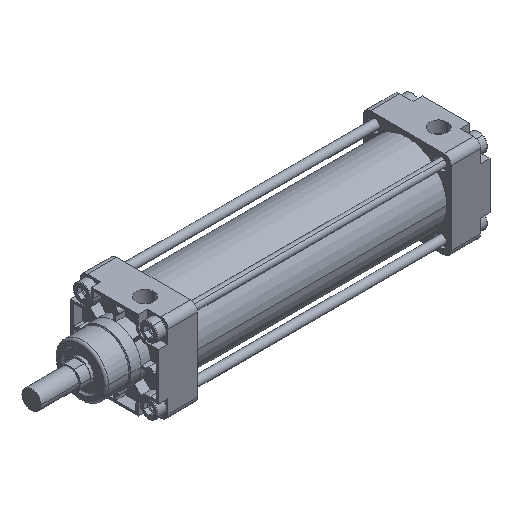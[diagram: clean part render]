
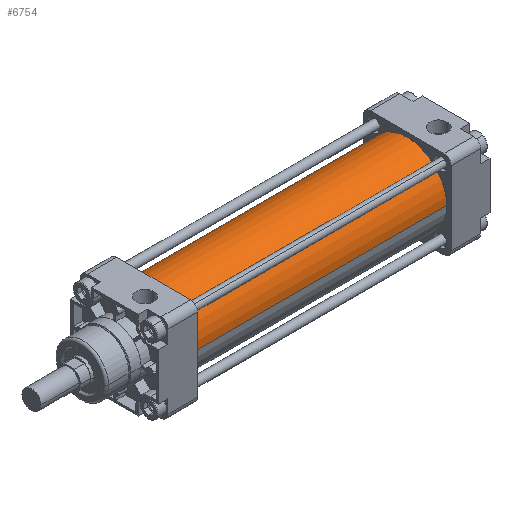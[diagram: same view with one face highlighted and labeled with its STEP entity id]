
A CAD part, isometric view. The second image highlights one B-rep face of the part: STEP entity #6754.
In plain terms, the highlighted cylindrical face has radius 33.5 mm (diameter 67 mm), a partial arc.
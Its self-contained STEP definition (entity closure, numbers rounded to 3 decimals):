
#6391=CARTESIAN_POINT('Vertex',(215.,-33.5,0.)) ;
#6393=CARTESIAN_POINT('Vertex',(215.,33.5,0.)) ;
#6396=CARTESIAN_POINT('Axis2P3D Location',(215.,0.,0.)) ;
#6724=CARTESIAN_POINT('Axis2P3D Location',(107.5,0.,0.)) ;
#6729=CARTESIAN_POINT('Line Origine',(107.5,33.5,0.)) ;
#6733=CARTESIAN_POINT('Vertex',(0.,33.5,0.)) ;
#6736=CARTESIAN_POINT('Axis2P3D Location',(0.,0.,0.)) ;
#6740=CARTESIAN_POINT('Vertex',(0.,-33.5,0.)) ;
#6743=CARTESIAN_POINT('Line Origine',(107.5,-33.5,0.)) ;
#6397=DIRECTION('Axis2P3D Direction',(1.,0.,0.)) ;
#6725=DIRECTION('Axis2P3D Direction',(1.,0.,0.)) ;
#6726=DIRECTION('Axis2P3D XDirection',(0.,1.,0.)) ;
#6730=DIRECTION('Vector Direction',(1.,0.,0.)) ;
#6737=DIRECTION('Axis2P3D Direction',(1.,0.,0.)) ;
#6744=DIRECTION('Vector Direction',(1.,0.,0.)) ;
#6398=AXIS2_PLACEMENT_3D('Circle Axis2P3D',#6396,#6397,$) ;
#6727=AXIS2_PLACEMENT_3D('Cylinder Axis2P3D',#6724,#6725,#6726) ;
#6738=AXIS2_PLACEMENT_3D('Circle Axis2P3D',#6736,#6737,$) ;
#6749=ORIENTED_EDGE('',*,*,#6735,.F.) ;
#6750=ORIENTED_EDGE('',*,*,#6742,.T.) ;
#6751=ORIENTED_EDGE('',*,*,#6747,.T.) ;
#6752=ORIENTED_EDGE('',*,*,#6400,.F.) ;
#6731=VECTOR('Line Direction',#6730,1.) ;
#6745=VECTOR('Line Direction',#6744,1.) ;
#6754=ADVANCED_FACE('PartBody',(#6753),#6728,.T.) ;
#6399=CIRCLE('generated circle',#6398,33.5) ;
#6739=CIRCLE('generated circle',#6738,33.5) ;
#6728=CYLINDRICAL_SURFACE('generated cylinder',#6727,33.5) ;
#6400=EDGE_CURVE('',#6394,#6392,#6399,.T.) ;
#6735=EDGE_CURVE('',#6734,#6394,#6732,.T.) ;
#6742=EDGE_CURVE('',#6734,#6741,#6739,.T.) ;
#6747=EDGE_CURVE('',#6741,#6392,#6746,.T.) ;
#6748=EDGE_LOOP('',(#6749,#6750,#6751,#6752)) ;
#6753=FACE_OUTER_BOUND('',#6748,.T.) ;
#6732=LINE('Line',#6729,#6731) ;
#6746=LINE('Line',#6743,#6745) ;
#6392=VERTEX_POINT('',#6391) ;
#6394=VERTEX_POINT('',#6393) ;
#6734=VERTEX_POINT('',#6733) ;
#6741=VERTEX_POINT('',#6740) ;
